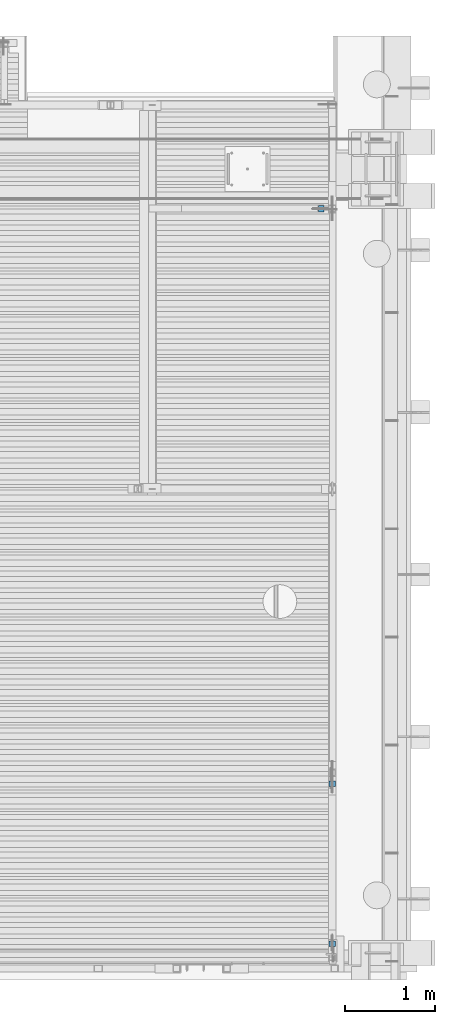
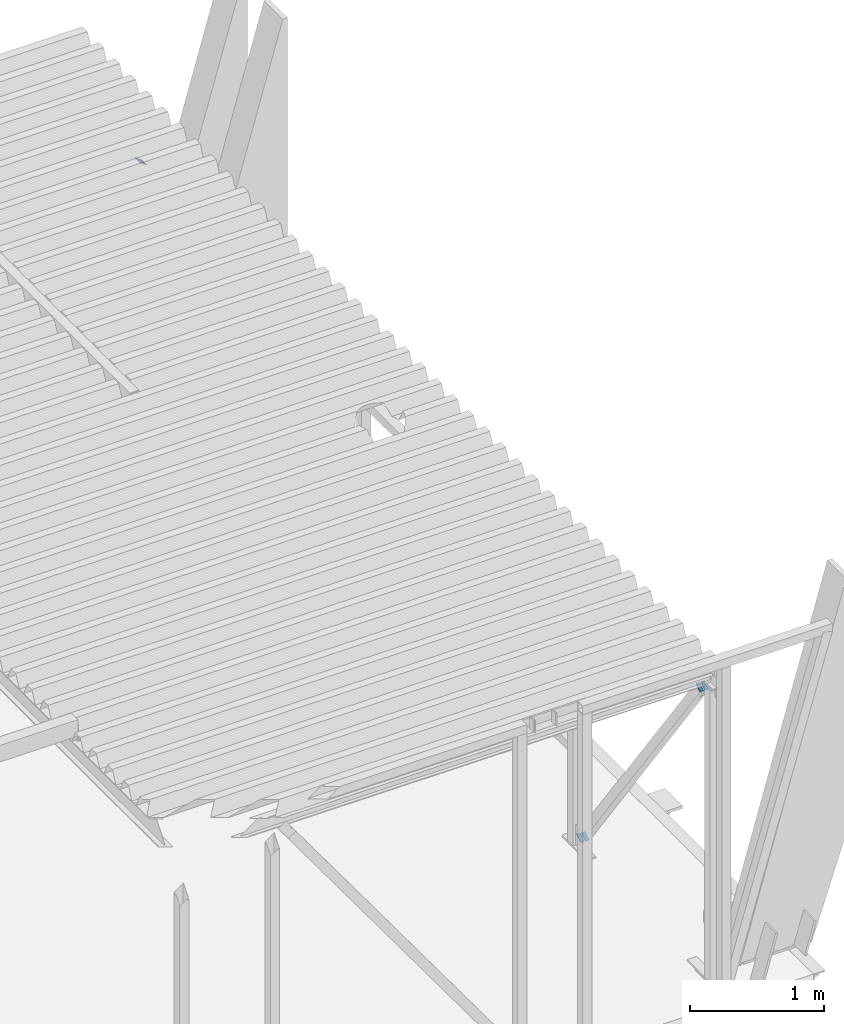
# One storey, part 25 of 30: 6 beams.
"""IFC2X3 building model written with IfcOpenShell, lengths in millimetres."""

import ifcopenshell
import ifcopenshell.guid

model = None  # the IFC model being written
_history = None  # IfcOwnerHistory: only IFC2X3 demands one
_inside = {}  # id of a spatial element -> (the spatial element, [elements in it])
_under = {}  # id of a project, library or spatial element -> (it, [spatial elements below it])
_declared = {}  # id of a project -> (the project, [libraries it declares])
_typed = {}  # id of a type object -> (the type object, [elements of that type])
_made_of = {}  # id of a material, layer set ... -> (it, [elements and type objects made of it])


def new_model(schema):
    """Start an empty IFC model of exactly this schema.

    Asked for "IFC4X3", IfcOpenShell would pick the latest addendum, in which some entities
    have other attributes; the version numbers below select the first issue.
    IFC2X3 requires an IfcOwnerHistory on every rooted entity: one is made here for all.
    """
    global model, _history
    if schema == "IFC4X3":
        model = ifcopenshell.file(schema_version=(4, 3, 0, 0))
    else:
        model = ifcopenshell.file(schema=schema)
    _inside.clear()
    _under.clear()
    _declared.clear()
    _typed.clear()
    _made_of.clear()
    _history = None
    if model.schema == "IFC2X3":
        org = make("IfcOrganization", Name="unknown")
        user = make(
            "IfcPersonAndOrganization",
            ThePerson=make("IfcPerson", FamilyName="unknown"),
            TheOrganization=org,
        )
        app = make(
            "IfcApplication",
            ApplicationDeveloper=org,
            Version="unknown",
            ApplicationFullName="unknown",
            ApplicationIdentifier="unknown",
        )
        _history = make(
            "IfcOwnerHistory",
            OwningUser=user,
            OwningApplication=app,
            ChangeAction="ADDED",
            CreationDate=0,
        )
    return model


def make(cls, **values):
    """One entity of the class cls with the attributes given. An attribute that is None is left unset."""
    return model.create_entity(
        cls, **{name: value for name, value in values.items() if value is not None}
    )


def entity(cls, *values):
    """Any entity or typed value of the class cls, its attributes in the order of the schema. None: left unset."""
    e = model.create_entity(cls)
    for i, value in enumerate(values):
        if value is not None:
            e[i] = value
    return e


def rooted(cls, **values):
    """An entity with a GlobalId (a new one), such as an element, a storey or a relation."""
    return make(cls, GlobalId=ifcopenshell.guid.new(), OwnerHistory=_history, **values)


def si_unit(unit_type, name, prefix=None):
    """IfcSIUnit, for example si_unit("LENGTHUNIT", "METRE", prefix="MILLI")."""
    return make("IfcSIUnit", UnitType=unit_type, Prefix=prefix, Name=name)


def converted_unit(unit_type, name, factor, base, dimensions=None, offset=None):
    """IfcConversionBasedUnit, such as the inch: factor (a typed value) times the base unit."""
    return make(
        "IfcConversionBasedUnit"
        if offset is None
        else "IfcConversionBasedUnitWithOffset",
        ConversionOffset=offset,
        Dimensions=None
        if dimensions is None
        else entity("IfcDimensionalExponents", *dimensions),
        UnitType=unit_type,
        Name=name,
        ConversionFactor=make(
            "IfcMeasureWithUnit", ValueComponent=factor, UnitComponent=base
        ),
    )


def derived_unit(unit_type, elements):
    """IfcDerivedUnit: a product of units, each with its exponent."""
    return make(
        "IfcDerivedUnit",
        Elements=[
            make("IfcDerivedUnitElement", Unit=unit, Exponent=power)
            for unit, power in elements
        ],
        UnitType=unit_type,
    )


def assignment(units):
    """IfcUnitAssignment: the units of a project."""
    return None if units is None else make("IfcUnitAssignment", Units=units)


def point(xyz):
    """IfcCartesianPoint."""
    return None if xyz is None else make("IfcCartesianPoint", Coordinates=xyz)


def direction(xyz):
    """IfcDirection."""
    return None if xyz is None else make("IfcDirection", DirectionRatios=xyz)


def frame(location, z_axis=None, x_axis=None):
    """IfcAxis2Placement3D, a coordinate frame: its origin and axes. An axis left out is left unset."""
    return make(
        "IfcAxis2Placement3D",
        Location=point(location),
        Axis=direction(z_axis),
        RefDirection=direction(x_axis),
    )


def origin_with_axes():
    """The frame at (0, 0, 0) with the z axis (0, 0, 1) and the x axis (1, 0, 0) written out."""
    return frame((0.0, 0.0, 0.0), z_axis=(0.0, 0.0, 1.0), x_axis=(1.0, 0.0, 0.0))


def place(relative_to, where):
    """IfcLocalPlacement: puts the frame where relative to a parent placement (None: the world)."""
    return make(
        "IfcLocalPlacement", PlacementRelTo=relative_to, RelativePlacement=where
    )


def context(
    kind, dimensions, precision=None, world=None, true_north=None, identifier=None
):
    """IfcGeometricRepresentationContext, for example the 3D "Model" context."""
    return make(
        "IfcGeometricRepresentationContext",
        ContextIdentifier=identifier,
        ContextType=kind,
        CoordinateSpaceDimension=dimensions,
        Precision=precision,
        WorldCoordinateSystem=world,
        TrueNorth=true_north,
    )


def subcontext(parent, identifier, kind, view, scale=None):
    """IfcGeometricRepresentationSubContext, for example "Body" below "Model"."""
    return make(
        "IfcGeometricRepresentationSubContext",
        ContextIdentifier=identifier,
        ContextType=kind,
        ParentContext=parent,
        TargetScale=scale,
        TargetView=view,
    )


def project(units=None, contexts=None):
    """IfcProject with its units and contexts."""
    return rooted(
        "IfcProject",
        Name="project",
        RepresentationContexts=contexts,
        UnitsInContext=assignment(units),
    )


def spatial(cls, under=None, at=None, **own):
    """A site, building, storey or space (cls), placed at a placement, below another one or the project."""
    s = rooted(cls, ObjectPlacement=at, **own)
    if under is not None:
        _under.setdefault(under.id(), (under, []))[1].append(s)
    return s


def faces_of(points, faces, orient=None, outer=None):
    """IfcFace entities. A face is a list of loops; a loop is a list of indices into points, from 0.

    orient and outer hold one flag for each loop. By default every Orientation is true, the
    first loop of a face is its IfcFaceOuterBound and the others are IfcFaceBound.
    """
    made = []
    for i, loops in enumerate(faces):
        bounds = []
        for j, loop in enumerate(loops):
            is_outer = j == 0 if outer is None else outer[i][j]
            bounds.append(
                make(
                    "IfcFaceOuterBound" if is_outer else "IfcFaceBound",
                    Bound=make("IfcPolyLoop", Polygon=[points[k] for k in loop]),
                    Orientation=True if orient is None else orient[i][j],
                )
            )
        made.append(make("IfcFace", Bounds=bounds))
    return made


def faceted_brep(points, faces, orient=None, outer=None, voids=None):
    """IfcFacetedBrep: a solid bounded by flat faces; with voids (closed shells), ...WithVoids."""
    shared = [point(p) for p in points]
    hull = make("IfcClosedShell", CfsFaces=faces_of(shared, faces, orient, outer))
    if voids is None:
        return make("IfcFacetedBrep", Outer=hull)
    return make(
        "IfcFacetedBrepWithVoids",
        Outer=hull,
        Voids=[
            make(cls, CfsFaces=faces_of(shared, fs, o, b)) for cls, fs, o, b in voids
        ],
    )


def shape(context_of_items, identifier, shape_type, items):
    """IfcShapeRepresentation: the items that make up one representation, for example the "Body"."""
    return make(
        "IfcShapeRepresentation",
        ContextOfItems=context_of_items,
        RepresentationIdentifier=identifier,
        RepresentationType=shape_type,
        Items=items,
    )


def material(Name=None, Category=None):
    """IfcMaterial."""
    return make("IfcMaterial", Name=Name, Category=Category)


def made_of(thing, what):
    """Note that an element or type object is made of a material, layer set ...; save() writes the relation."""
    if what is not None:
        _made_of.setdefault(what.id(), (what, []))[1].append(thing)
    return thing


def type_object(cls, material=None, **own):
    """A type object (cls), such as IfcWallType, which elements share."""
    return made_of(rooted(cls, **own), material)


def element(
    cls,
    number,
    at=None,
    inside=None,
    cuts=None,
    type_object=None,
    material=None,
    context=None,
    identifier="Body",
    shape_type=None,
    held_by="IfcProductDefinitionShape",
    body=None,
    shapes=None,
    **own,
):
    """One element of the class cls, such as IfcWall. Its Tag is "e" and its number.

    at: its placement. inside: the storey or other place that contains it. cuts: it is an
    opening in that element (IfcRelVoidsElement). A single representation is given by context,
    identifier, shape_type and body (its items); several are given by shapes. held_by: the class
    of the entity that holds the representations. save() writes the other relations.
    """
    e = rooted(cls, Tag="e%d" % number, ObjectPlacement=at, **own)
    if body is not None:
        shapes = [shape(context, identifier, shape_type, body)]
    if shapes is not None:
        e.Representation = make(held_by, Representations=shapes)
    if inside is not None:
        _inside.setdefault(inside.id(), (inside, []))[1].append(e)
    if cuts is not None:
        rooted(
            "IfcRelVoidsElement", RelatingBuildingElement=cuts, RelatedOpeningElement=e
        )
    if type_object is not None:
        _typed.setdefault(type_object.id(), (type_object, []))[1].append(e)
    return made_of(e, material)


def aggregate(whole, parts):
    """IfcRelAggregates: a whole, such as a stair, and the parts it consists of."""
    return rooted("IfcRelAggregates", RelatingObject=whole, RelatedObjects=parts)


def save(model, path):
    """Write the relations noted so far, then the file.

    IfcRelAggregates (storeys below a building ...), IfcRelContainedInSpatialStructure (elements
    in a storey), IfcRelDefinesByType, IfcRelAssociatesMaterial and IfcRelDeclares: one each for
    every whole, place, type object, material and project.
    """
    for whole, parts in _under.values():
        aggregate(whole, parts)
    for where, things in _inside.values():
        rooted(
            "IfcRelContainedInSpatialStructure",
            RelatedElements=things,
            RelatingStructure=where,
        )
    for kind, things in _typed.values():
        rooted("IfcRelDefinesByType", RelatedObjects=things, RelatingType=kind)
    for what, things in _made_of.values():
        rooted("IfcRelAssociatesMaterial", RelatedObjects=things, RelatingMaterial=what)
    for by, libraries in _declared.values():
        rooted("IfcRelDeclares", RelatingContext=by, RelatedDefinitions=libraries)
    model.write(path)


model = new_model("IFC2X3")

# Units and contexts
model_context = context("Model", 3, precision=0.01, world=frame((0.0, 4.29681676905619e-09, 0.0)), true_north=direction((4.01073788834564e-13, 1.0)))
plan_context = context("Plan", 3, precision=0.01, world=frame((0.0, 4.29681676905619e-09, 0.0)), true_north=direction((4.01073788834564e-13, 1.0)))
body_context = subcontext(model_context, "Body", "Model", "MODEL_VIEW")
ifc_project = project(units=[converted_unit("PLANEANGLEUNIT", "DEGREE", entity("IfcPositiveLengthMeasure", 0.0174532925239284), si_unit("PLANEANGLEUNIT", "RADIAN"), dimensions=[0, 0, 0, 0, 0, 0, 0]), si_unit("AREAUNIT", "SQUARE_METRE"), si_unit("LENGTHUNIT", "METRE", prefix="MILLI"), si_unit("MASSUNIT", "GRAM", prefix="KILO"), si_unit("POWERUNIT", "WATT"), si_unit("PRESSUREUNIT", "PASCAL"), si_unit("FORCEUNIT", "NEWTON", prefix="KILO"), si_unit("ELECTRICVOLTAGEUNIT", "VOLT"), si_unit("ELECTRICCURRENTUNIT", "AMPERE"), si_unit("THERMODYNAMICTEMPERATUREUNIT", "DEGREE_CELSIUS"), si_unit("TIMEUNIT", "SECOND"), si_unit("VOLUMEUNIT", "CUBIC_METRE"), derived_unit("LINEARVELOCITYUNIT", [(si_unit("LENGTHUNIT", "METRE"), 1), (si_unit("TIMEUNIT", "SECOND"), -1)]), derived_unit("VOLUMETRICFLOWRATEUNIT", [(si_unit("VOLUMEUNIT", "CUBIC_METRE"), 1), (si_unit("TIMEUNIT", "SECOND"), -1)]), derived_unit("THERMALTRANSMITTANCEUNIT", [(si_unit("POWERUNIT", "WATT"), 1), (si_unit("THERMODYNAMICTEMPERATUREUNIT", "KELVIN"), -1), (si_unit("AREAUNIT", "SQUARE_METRE"), -1)]), derived_unit("SOUNDPRESSUREUNIT", [(si_unit("PRESSUREUNIT", "PASCAL"), 1)])], contexts=[model_context, plan_context])

# Site, building, storey
site_placement = place(None, frame((0.0, -4.29681676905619e-09, 0.0), z_axis=(0.0, 0.0, 1.0), x_axis=(1.0, 0.0, 0.0)))
site = spatial("IfcSite", under=ifc_project, at=site_placement, Name="Gardermoen", CompositionType="ELEMENT")
building_placement = place(site_placement, frame((0.0, 4.29681676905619e-09, 0.0), z_axis=(0.0, 0.0, 1.0), x_axis=(1.0, 0.0, 0.0)))
building = spatial("IfcBuilding", under=site, at=building_placement, Name="TI", CompositionType="ELEMENT")
storey_placement = place(building_placement, origin_with_axes())
storey = spatial("IfcBuildingStorey", under=building, at=storey_placement, Name="F", CompositionType="ELEMENT", Elevation=0.0)

# Beams
ifc_material = material(Name="STEEL/S355J2H")
beam_type = type_object("IfcBeamType", Name="PL5*31", PredefinedType="NOTDEFINED")
for number, where, z_axis, x_axis in (
    (1, (611325.640045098, 689374.121314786, 213438.912664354), (-2.48429132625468e-07, 0.809478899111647, 0.587148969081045), (-0.999999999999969, -1.81102991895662e-07, -1.73431424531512e-07)),
    (2, (611284.64003527, 689374.121306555, 213438.91265837), (-2.48429132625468e-07, 0.809478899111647, 0.587148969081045), (-0.999999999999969, -1.81102991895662e-07, -1.73431424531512e-07)),
    (3, (611325.640028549, 691209.649832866, 211030.969063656), (-4.69497808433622e-08, -0.809478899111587, -0.587148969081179), (-0.999999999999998, 5.80000057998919e-08, 0.0)),
    (4, (611284.640028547, 691209.64983288, 211030.969063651), (-4.69497808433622e-08, -0.809478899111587, -0.587148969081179), (-0.999999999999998, 5.80000057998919e-08, 0.0)),
    (5, (611195.391459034, 697597.023517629, 213316.831312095), (-0.81117847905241, -1.0181630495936e-06, 0.584798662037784), (1.28073734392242e-06, -0.999999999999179, 3.54712184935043e-08)),
    (6, (611195.39151548, 697556.02351761, 213316.831319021), (-0.81117847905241, -1.0181630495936e-06, 0.584798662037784), (1.28073734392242e-06, -0.999999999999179, 3.54712184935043e-08)),
):
    element("IfcBeam", number, at=place(storey_placement, frame(where, z_axis=z_axis, x_axis=x_axis)), inside=storey, type_object=beam_type, material=ifc_material, Name="STÅLBJELKE", ObjectType="PL5*31", context=body_context, shape_type="Brep", body=[
        faceted_brep([(0.0, -2.5, 0.0), (-4.07453626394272e-10, -2.50000000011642, 72.0000000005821), (-4.07453626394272e-10, 2.5, 72.0000000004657), (0.0, 2.5, 0.0), (31.0000000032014, -2.50000000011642, 72.0000000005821), (31.0000000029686, 2.5, 72.0000000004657), (31.000000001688, -2.49999999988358, -6.98491930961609e-10), (31.000000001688, 2.50000000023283, -8.14907252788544e-10)], [[[0, 1, 2, 3]], [[1, 4, 5, 2]], [[4, 6, 7, 5]], [[6, 0, 3, 7]], [[5, 7, 3, 2]], [[6, 4, 1, 0]]]),
    ])

save(model, "model.ifc")
